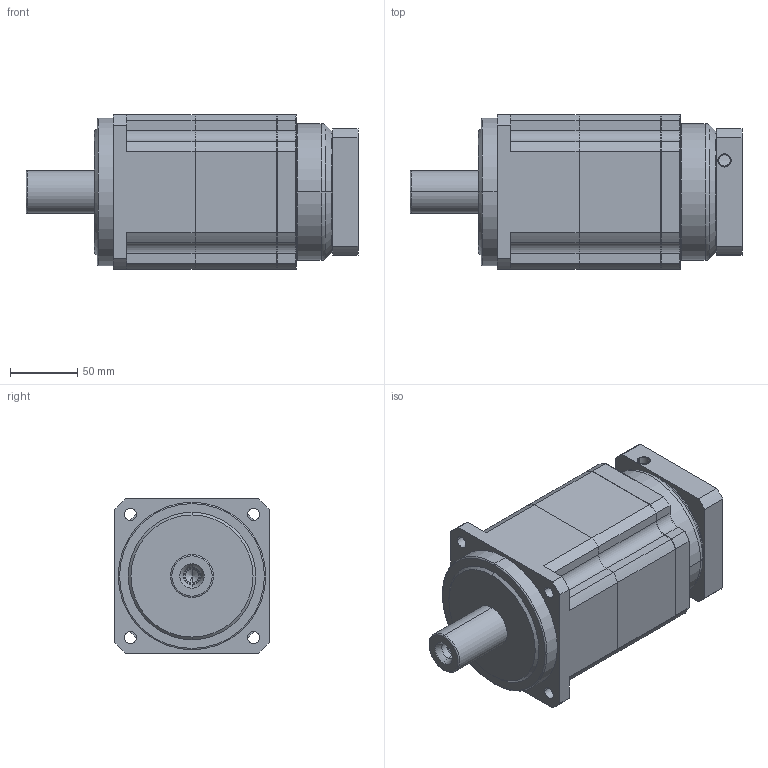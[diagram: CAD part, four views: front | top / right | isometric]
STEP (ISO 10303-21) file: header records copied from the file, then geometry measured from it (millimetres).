
FILE_DESCRIPTION((''),'2;1');
FILE_NAME('AB115A2-P0403402303_ASM','2023-10-13T',('Administrator'),(''),'PRO/ENGINEER BY PARAMETRIC TECHNOLOGY CORPORATION, 2015240','PRO/ENGINEER BY PARAMETRIC TECHNOLOGY CORPORATION, 2015240','');
FILE_SCHEMA(('CONFIG_CONTROL_DESIGN'));
Length unit declared in the file: millimetre
Products named in the file (7): P1301400001_D; AB115A2-1; AB115; AB-INPUTSHAFT-4; AB115A2_ASM; P0403402303-0011; AB115A2-P0403402303_ASM
Assembly tree (6 placements, depth 3):
  AB115A2-P0403402303_ASM
    AB115A2_ASM
      P1301400001_D
      AB115A2-1
      AB115
      AB-INPUTSHAFT-4
    P0403402303-0011
Bounding box: 247.5 x 115 x 115 mm (x, y, z)
Volume: 2019838.6 mm3; surface area: 197514.3 mm2
Topology: 5 solids, 11 shells, 285 faces, 723 edges, 457 vertices
Faces by surface type: cylinder 141, plane 92, cone 30, torus 22
Entity records: 8988 total; most frequent: CARTESIAN_POINT 1690, DIRECTION 1637, ORIENTED_EDGE 1400, EDGE_CURVE 713, AXIS2_PLACEMENT_3D 653, VERTEX_POINT 457, CIRCLE 347, EDGE_LOOP 332
